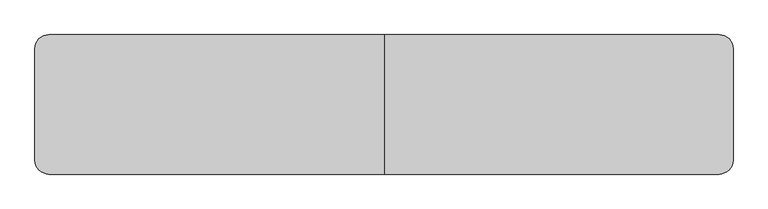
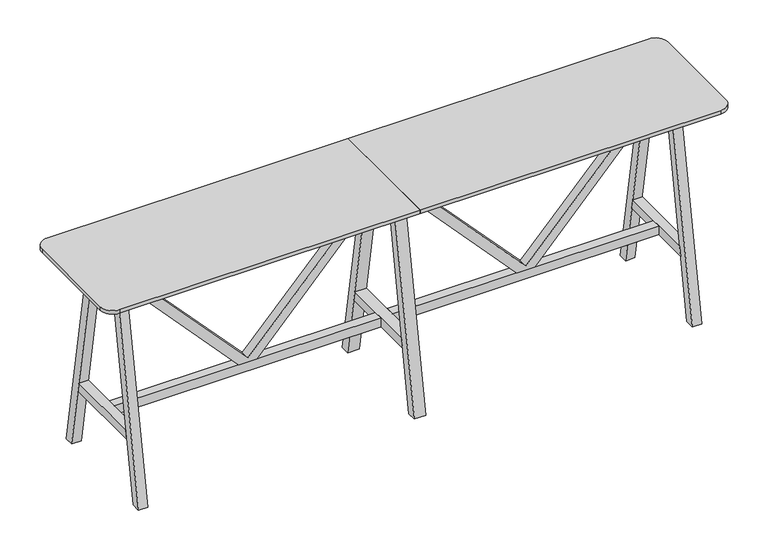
"""IFC4 building model written with IfcOpenShell, lengths in millimetres: furniture geometry, BDG_BossDesign_Tbls_AgentTables6Legs : AGE-HT-6L-3000-600-3D."""

from ifc_helpers import new_model, si_unit, point, frame, frame_2d, origin, place, context, project, spatial, polyline, circle_curve, trimmed, segment, composite_curve, outline, extrude, source, transform, mapped, element, save


def furniture_671829be(model_context):
    return source(origin(), model_context, "Body", "SweptSolid", [
        extrude(outline(polyline([(345.0, 624.0823957), (345.0, 708.4176043), (992.0, 1305.0), (1032.0, 1305.0), (1032.0, 1285.0), (365.0, 666.25), (1032.0, 47.5), (1032.0, 27.5), (992.0, 27.5), (345.0, 624.0823957)])), frame((0.0, -22.5000305, 0.0), z_axis=(0.0, 1.0, 0.0), x_axis=(0.0, 0.0, 1.0)), (0.0, 0.0, 1.0), 45.000061),
        extrude(outline(polyline([(345.0, -624.0823957), (992.0, -27.5), (1032.0, -27.5), (1032.0, -47.5), (365.0, -666.25), (1032.0, -1285.0), (1032.0, -1305.0), (992.0, -1305.0), (345.0, -708.4176043), (345.0, -624.0823957)])), frame((0.0, -22.5000305, 0.0), z_axis=(0.0, 1.0, 0.0), x_axis=(0.0, 0.0, 1.0)), (0.0, 0.0, 1.0), 45.000061),
        extrude(outline(polyline([(300.0, 0.0), (254.9999949, 0.0), (85.5, 970.0), (130.5000051, 970.0), (300.0, 0.0)])), frame((-27.5, 0.0, 0.0), z_axis=(1.0, 0.0, 0.0), x_axis=(0.0, 1.0, 0.0)), (0.0, 0.0, 1.0), 55.0),
        extrude(outline(polyline([(-300.0, 0.0), (-130.5000051, 970.0), (-85.5, 970.0), (-254.9999949, 0.0), (-300.0, 0.0)])), frame((-27.5, 0.0, 0.0), z_axis=(1.0, 0.0, 0.0), x_axis=(0.0, 1.0, 0.0)), (0.0, 0.0, 1.0), 55.0),
        extrude(outline(polyline([(202.5773161, 300.0), (-202.5773161, 300.0), (-194.7139143, 345.0), (194.7139143, 345.0), (202.5773161, 300.0)])), frame((-27.5, 0.0, 0.0), z_axis=(1.0, 0.0, 0.0), x_axis=(0.0, 1.0, 0.0)), (0.0, 0.0, 1.0), 55.0),
        extrude(outline(composite_curve([segment(polyline([(0.0, 300.0), (0.0, -300.0), (-1440.0, -300.0)]), True, "CONTINUOUS"), segment(trimmed(circle_curve(frame_2d((-1440.0, -240.0)), 60.0), [point((-1440.0, -300.0))], [point((-1500.0, -240.0))], False, "CARTESIAN"), True, "CONTINUOUS"), segment(polyline([(-1500.0, -240.0), (-1500.0, 240.0)]), True, "CONTINUOUS"), segment(trimmed(circle_curve(frame_2d((-1440.0, 240.0)), 60.0), [point((-1500.0, 240.0))], [point((-1440.0, 300.0))], False, "CARTESIAN"), True, "CONTINUOUS"), segment(polyline([(-1440.0, 300.0), (0.0, 300.0)]), True, "CONTINUOUS")], self_intersect=False)), frame((0.0, 0.0, 1032.0), z_axis=(0.0, 0.0, 1.0), x_axis=(1.0, 0.0, 0.0)), (0.0, 0.0, 1.0), 18.0),
        extrude(outline(polyline([(-194.7139143, 345.0), (194.7139143, 345.0), (202.5773161, 300.0), (-202.5773161, 300.0), (-194.7139143, 345.0)])), frame((1305.0, 0.0, 0.0), z_axis=(1.0, 0.0, 0.0), x_axis=(0.0, 1.0, 0.0)), (0.0, 0.0, 1.0), 45.0),
        extrude(outline(polyline([(300.0, 0.0), (254.9999949, 0.0), (85.5, 970.0), (130.5000051, 970.0), (300.0, 0.0)])), frame((-1350.0, 0.0, 0.0), z_axis=(1.0, 0.0, 0.0), x_axis=(0.0, 1.0, 0.0)), (0.0, 0.0, 1.0), 45.0),
        extrude(outline(polyline([(-300.0, 0.0), (-130.5000051, 970.0), (-85.5, 970.0), (-254.9999949, 0.0), (-300.0, 0.0)])), frame((-1350.0, 0.0, 0.0), z_axis=(1.0, 0.0, 0.0), x_axis=(0.0, 1.0, 0.0)), (0.0, 0.0, 1.0), 45.0),
        extrude(outline(polyline([(-194.7139143, 345.0), (194.7139143, 345.0), (202.5773161, 300.0), (-202.5773161, 300.0), (-194.7139143, 345.0)])), frame((-1350.0, 0.0, 0.0), z_axis=(1.0, 0.0, 0.0), x_axis=(0.0, 1.0, 0.0)), (0.0, 0.0, 1.0), 45.0),
        extrude(outline(polyline([(-126.6006165, 944.973938), (-104.2770691, 1032.0), (-79.5, 1032.0), (-101.8235474, 944.973938), (-126.6006165, 944.973938)])), frame((-1305.0, 0.0, 0.0), z_axis=(1.0, 0.0, 0.0), x_axis=(0.0, 1.0, 0.0)), (0.0, 0.0, 1.0), 2610.0),
        extrude(outline(polyline([(126.6006165, 944.973938), (101.8235474, 944.973938), (79.5, 1032.0), (104.2770691, 1032.0), (126.6006165, 944.973938)])), frame((-1305.0, 0.0, 0.0), z_axis=(1.0, 0.0, 0.0), x_axis=(0.0, 1.0, 0.0)), (0.0, 0.0, 1.0), 2610.0),
        extrude(outline(polyline([(299.7999878, 0.0), (254.7999827, 0.0), (85.5, 970.0), (130.5000051, 970.0), (299.7999878, 0.0)])), frame((1305.0, 0.0, 0.0), z_axis=(1.0, 0.0, 0.0), x_axis=(0.0, 1.0, 0.0)), (0.0, 0.0, 1.0), 45.0),
        extrude(outline(polyline([(-299.7999878, 0.0), (-130.5000051, 970.0), (-85.5, 970.0), (-254.7999827, 0.0), (-299.7999878, 0.0)])), frame((1305.0, 0.0, 0.0), z_axis=(1.0, 0.0, 0.0), x_axis=(0.0, 1.0, 0.0)), (0.0, 0.0, 1.0), 45.0),
        extrude(outline(polyline([(-27.5, 22.5000305), (-27.5, -22.5000305), (-1305.0, -22.5000305), (-1305.0, 22.5000305), (-27.5, 22.5000305)])), frame((0.0, 0.0, 300.0), z_axis=(0.0, 0.0, 1.0), x_axis=(1.0, 0.0, 0.0)), (0.0, 0.0, 1.0), 45.0),
        extrude(outline(polyline([(27.5, -22.5000305), (27.5, 22.5000305), (1305.0, 22.5000305), (1305.0, -22.5000305), (27.5, -22.5000305)])), frame((0.0, 0.0, 300.0), z_axis=(0.0, 0.0, 1.0), x_axis=(1.0, 0.0, 0.0)), (0.0, 0.0, 1.0), 45.0),
        extrude(outline(composite_curve([segment(trimmed(circle_curve(frame_2d((1440.0, 240.0)), 60.0), [point((1440.0, 300.0))], [point((1500.0, 240.0))], False, "CARTESIAN"), True, "CONTINUOUS"), segment(polyline([(1500.0, 240.0), (1500.0, -240.0)]), True, "CONTINUOUS"), segment(trimmed(circle_curve(frame_2d((1440.0, -240.0)), 60.0), [point((1500.0, -240.0))], [point((1440.0, -300.0))], False, "CARTESIAN"), True, "CONTINUOUS"), segment(polyline([(1440.0, -300.0), (0.0, -300.0), (0.0, 300.0), (1440.0, 300.0)]), True, "CONTINUOUS")], self_intersect=False)), frame((0.0, 0.0, 1032.0), z_axis=(0.0, 0.0, 1.0), x_axis=(1.0, 0.0, 0.0)), (0.0, 0.0, 1.0), 18.0),
    ])


if __name__ == "__main__":
    model = new_model("IFC4")
    model_context = context("Model", 3, world=origin())
    ifc_project = project(units=[si_unit("LENGTHUNIT", "METRE", prefix="MILLI")], contexts=[model_context])
    site = spatial("IfcSite", under=ifc_project)
    building = spatial("IfcBuilding", under=site)
    placement = place(None, origin())
    furniture_shape = furniture_671829be(model_context)
    element("IfcFurniture", 1, ObjectType="BDG_BossDesign_Tbls_AgentTables6Legs : AGE-HT-6L-3000-600-3D", at=placement, inside=building, context=model_context, shape_type="MappedRepresentation", body=[
        mapped(furniture_shape, transform((0.0, 0.0, 0.0), x_axis=(1.0, 0.0, 0.0), y_axis=(0.0, 1.0, 0.0), z_axis=(0.0, 0.0, 1.0))),
    ])
    save(model, "model.ifc")
